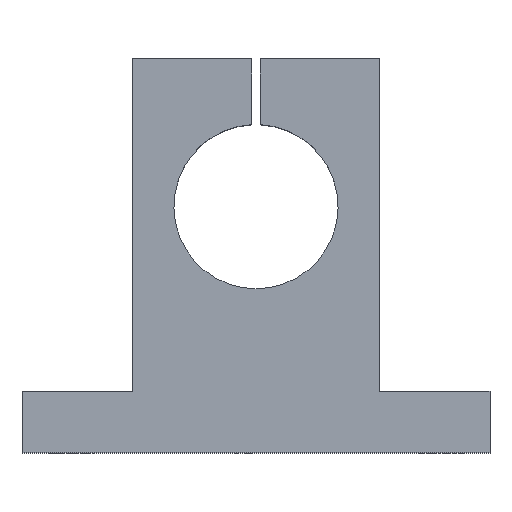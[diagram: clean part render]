
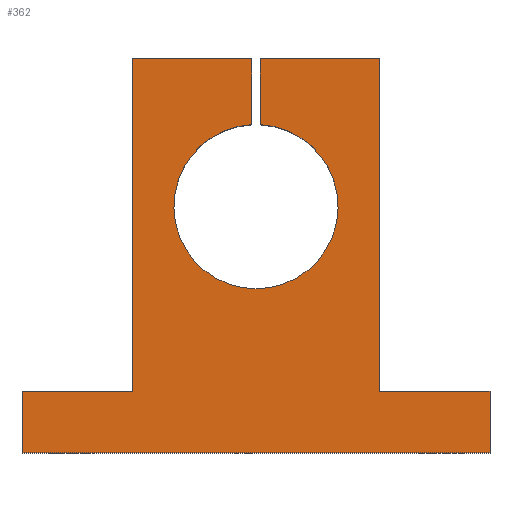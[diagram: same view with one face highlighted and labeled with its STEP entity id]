
A CAD part, top view. The second image highlights one B-rep face of the part: STEP entity #362.
In plain terms, the highlighted planar face has unit normal (0, 0, 1).
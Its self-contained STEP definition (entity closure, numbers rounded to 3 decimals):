
#27=CIRCLE('',#397,20.);
#47=ORIENTED_EDGE('',*,*,#139,.F.);
#48=ORIENTED_EDGE('',*,*,#135,.T.);
#49=ORIENTED_EDGE('',*,*,#140,.T.);
#50=ORIENTED_EDGE('',*,*,#141,.T.);
#51=ORIENTED_EDGE('',*,*,#142,.T.);
#52=ORIENTED_EDGE('',*,*,#143,.T.);
#53=ORIENTED_EDGE('',*,*,#144,.T.);
#54=ORIENTED_EDGE('',*,*,#145,.T.);
#55=ORIENTED_EDGE('',*,*,#146,.T.);
#56=ORIENTED_EDGE('',*,*,#147,.T.);
#57=ORIENTED_EDGE('',*,*,#132,.F.);
#58=ORIENTED_EDGE('',*,*,#148,.F.);
#132=EDGE_CURVE('',#178,#179,#212,.T.);
#135=EDGE_CURVE('',#181,#182,#214,.T.);
#139=EDGE_CURVE('',#181,#185,#218,.T.);
#140=EDGE_CURVE('',#182,#186,#219,.T.);
#141=EDGE_CURVE('',#186,#187,#220,.T.);
#142=EDGE_CURVE('',#187,#188,#221,.T.);
#143=EDGE_CURVE('',#188,#189,#222,.T.);
#144=EDGE_CURVE('',#189,#190,#223,.T.);
#145=EDGE_CURVE('',#190,#191,#224,.T.);
#146=EDGE_CURVE('',#191,#192,#225,.T.);
#147=EDGE_CURVE('',#192,#179,#226,.T.);
#148=EDGE_CURVE('',#185,#178,#27,.T.);
#178=VERTEX_POINT('',#531);
#179=VERTEX_POINT('',#533);
#181=VERTEX_POINT('',#539);
#182=VERTEX_POINT('',#540);
#185=VERTEX_POINT('',#548);
#186=VERTEX_POINT('',#550);
#187=VERTEX_POINT('',#552);
#188=VERTEX_POINT('',#554);
#189=VERTEX_POINT('',#556);
#190=VERTEX_POINT('',#558);
#191=VERTEX_POINT('',#560);
#192=VERTEX_POINT('',#562);
#212=LINE('',#532,#246);
#214=LINE('',#538,#248);
#218=LINE('',#547,#252);
#219=LINE('',#549,#253);
#220=LINE('',#551,#254);
#221=LINE('',#553,#255);
#222=LINE('',#555,#256);
#223=LINE('',#557,#257);
#224=LINE('',#559,#258);
#225=LINE('',#561,#259);
#226=LINE('',#563,#260);
#246=VECTOR('',#431,1000.);
#248=VECTOR('',#437,1000.);
#252=VECTOR('',#443,1000.);
#253=VECTOR('',#444,1000.);
#254=VECTOR('',#445,1000.);
#255=VECTOR('',#446,1000.);
#256=VECTOR('',#447,1000.);
#257=VECTOR('',#448,1000.);
#258=VECTOR('',#449,1000.);
#259=VECTOR('',#450,1000.);
#260=VECTOR('',#451,1000.);
#281=EDGE_LOOP('',(#47,#48,#49,#50,#51,#52,#53,#54,#55,#56,#57,#58));
#315=FACE_BOUND('',#281,.T.);
#348=PLANE('',#396);
#362=ADVANCED_FACE('',(#315),#348,.T.);
#396=AXIS2_PLACEMENT_3D('',#546,#441,#442);
#397=AXIS2_PLACEMENT_3D('',#564,#452,#453);
#431=DIRECTION('',(0.,1.,0.));
#437=DIRECTION('',(-1.,0.,0.));
#441=DIRECTION('',(0.,0.,1.));
#442=DIRECTION('',(1.,0.,0.));
#443=DIRECTION('',(0.,-1.,0.));
#444=DIRECTION('',(0.,-1.,0.));
#445=DIRECTION('',(-1.,0.,0.));
#446=DIRECTION('',(0.,-1.,0.));
#447=DIRECTION('',(1.,0.,0.));
#448=DIRECTION('',(0.,1.,0.));
#449=DIRECTION('',(-1.,0.,0.));
#450=DIRECTION('',(0.,1.,0.));
#451=DIRECTION('',(-1.,0.,0.));
#452=DIRECTION('',(0.,0.,1.));
#453=DIRECTION('',(1.,0.,0.));
#531=CARTESIAN_POINT('',(1.,19.975,18.));
#532=CARTESIAN_POINT('',(1.,36.,18.));
#533=CARTESIAN_POINT('',(1.,36.,18.));
#538=CARTESIAN_POINT('',(30.,36.,18.));
#539=CARTESIAN_POINT('',(-1.,36.,18.));
#540=CARTESIAN_POINT('',(-30.,36.,18.));
#546=CARTESIAN_POINT('',(57.,-45.,18.));
#547=CARTESIAN_POINT('',(-1.,36.,18.));
#548=CARTESIAN_POINT('',(-1.,19.975,18.));
#549=CARTESIAN_POINT('',(-30.,-45.,18.));
#550=CARTESIAN_POINT('',(-30.,-45.,18.));
#551=CARTESIAN_POINT('',(-57.,-45.,18.));
#552=CARTESIAN_POINT('',(-57.,-45.,18.));
#553=CARTESIAN_POINT('',(-57.,-60.,18.));
#554=CARTESIAN_POINT('',(-57.,-60.,18.));
#555=CARTESIAN_POINT('',(-57.,-60.,18.));
#556=CARTESIAN_POINT('',(57.,-60.,18.));
#557=CARTESIAN_POINT('',(57.,-60.,18.));
#558=CARTESIAN_POINT('',(57.,-45.,18.));
#559=CARTESIAN_POINT('',(57.,-45.,18.));
#560=CARTESIAN_POINT('',(30.,-45.,18.));
#561=CARTESIAN_POINT('',(30.,-45.,18.));
#562=CARTESIAN_POINT('',(30.,36.,18.));
#563=CARTESIAN_POINT('',(30.,36.,18.));
#564=CARTESIAN_POINT('',(0.,0.,18.));
